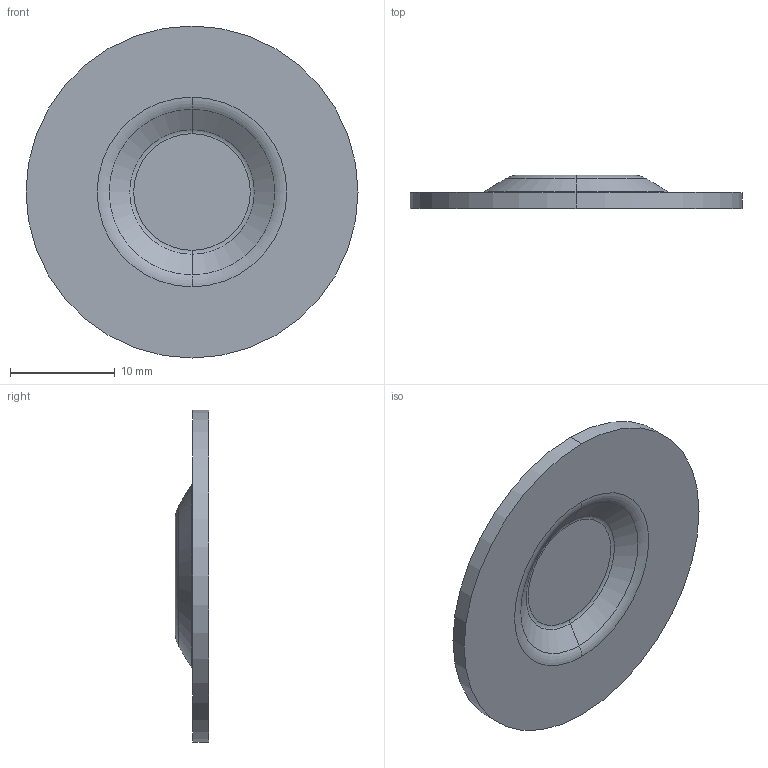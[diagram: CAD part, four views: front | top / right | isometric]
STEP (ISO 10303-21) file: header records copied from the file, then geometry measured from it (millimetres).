
FILE_DESCRIPTION (( 'STEP AP203' ), '1' );
FILE_NAME ('1780029-10.STEP', '2024-11-18T15:28:00', ( '' ), ( '' ), 'SwSTEP 2.0', 'SolidWorks 2024', '' );
FILE_SCHEMA (( 'CONFIG_CONTROL_DESIGN' ));
Length unit declared in the file: inch
Products named in the file (1): 1780029-10
Bounding box: 31.75 x 3.17 x 31.75 mm (x, y, z)
Volume: 1236.6 mm3; surface area: 1774.9 mm2
Topology: 1 solids, 1 shells, 18 faces, 34 edges, 20 vertices
Faces by surface type: torus 8, cone 4, plane 4, cylinder 2
Entity records: 541 total; most frequent: DIRECTION 100, CARTESIAN_POINT 73, ORIENTED_EDGE 68, AXIS2_PLACEMENT_3D 47, EDGE_CURVE 34, CIRCLE 28, VERTEX_POINT 20, EDGE_LOOP 20
